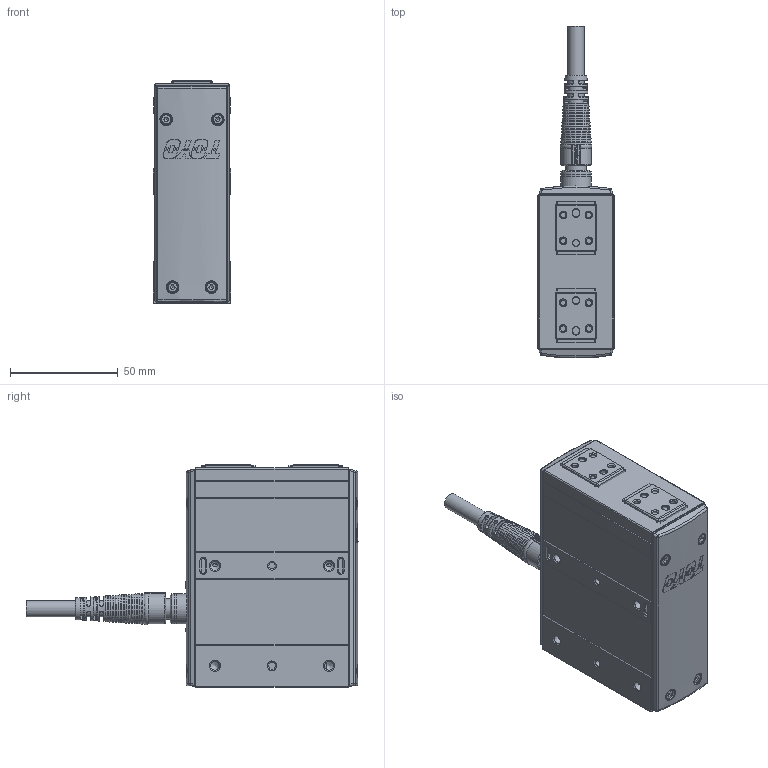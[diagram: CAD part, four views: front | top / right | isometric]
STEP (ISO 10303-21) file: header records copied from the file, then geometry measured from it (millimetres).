
FILE_DESCRIPTION(/* description */ ('STEP AP214'),/* implementation_level */ '2;1');
FILE_NAME(/* name */ 'D:\2025.02.25 帶電匯整給泊舟\CHZ2-S14-180.stp',/* time_stamp */ '2025-02-26T10:45:11+08:00',/* author */ ('T10033'),/* organization */ (''),/* preprocessor_version */ 'ST-DEVELOPER v18.1',/* originating_system */ 'Autodesk Inventor 2020',/* authorisation */ '');
FILE_SCHEMA (('CONFIG_CONTROL_DESIGN'));
Products named in the file (5): CHZ2-S14; 慶陞金屬頭; M12-14PIN 線端180度接頭-05中繼線; 62TW34T6SE34_Shrinkwrap_1; 6T3Y7E45_Shrinkwrap_1
Assembly tree (5 placements, depth 2):
  CHZ2-S14
    慶陞金屬頭
    M12-14PIN 線端180度接頭-05中繼線
    62TW34T6SE34_Shrinkwrap_1
    6T3Y7E45_Shrinkwrap_1  x2
Bounding box: 36 x 154.4 x 103.5 mm (x, y, z)
Volume: 294682.2 mm3; surface area: 61261.9 mm2
Topology: 40 solids, 40 shells, 2544 faces, 6890 edges, 4526 vertices
Faces by surface type: plane 1443, cylinder 463, cone 382, bspline 166, torus 70, sphere 20
Full cylindrical faces by diameter (mm): 0.6 x14, 0.65 x14, 0.8 x2, 1 x18, 2 x2, 2.05 x16, 2.5 x20, 2.7 x8, 3 x5, 4.2 x12, 4.5 x8, 4.7 x4, 5.5 x2, 6.8 x2, 7.5 x1, 8 x1, 8.9 x1, 9.5 x2, 9.6 x1, 10.5 x2, 11 x1, 11.2 x5, 12 x1, 13 x1, 13.8 x1, 14 x2
Entity records: 100990 total; most frequent: CARTESIAN_POINT 37199, DIRECTION 13061, ORIENTED_EDGE 12862, EDGE_CURVE 6431, AXIS2_PLACEMENT_3D 4870, VERTEX_POINT 4250, LINE 3321, VECTOR 3321
